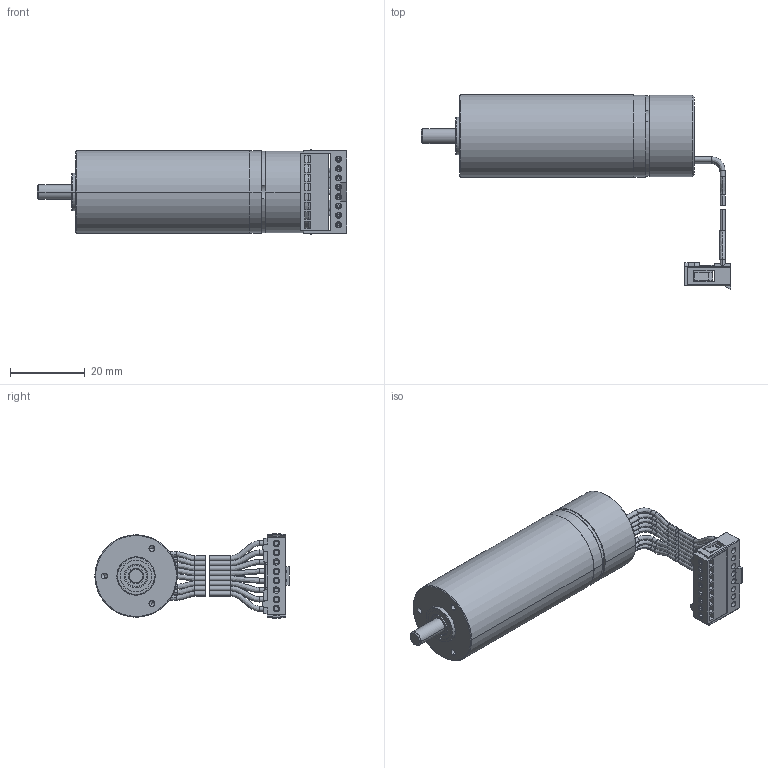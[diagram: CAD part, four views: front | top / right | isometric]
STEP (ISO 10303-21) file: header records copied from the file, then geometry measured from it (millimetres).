
FILE_DESCRIPTION((''),'2;1');
FILE_NAME('386673_EC22_100W_A','2016-10-17T',('mmagpetk'),(''),'CREO PARAMETRIC BY PTC INC, 2016050','CREO PARAMETRIC BY PTC INC, 2016050','');
FILE_SCHEMA(('CONFIG_CONTROL_DESIGN'));
Length unit declared in the file: millimetre
Products named in the file (1): 386673_EC22_100W_A
Bounding box: 82.75 x 51.89 x 22.6 mm (x, y, z)
Volume: 25287.7 mm3; surface area: 9096.5 mm2
Topology: 4 solids, 7 shells, 668 faces, 1812 edges, 1158 vertices
Faces by surface type: plane 330, cylinder 242, bspline 48, cone 30, torus 18
Entity records: 33503 total; most frequent: CARTESIAN_POINT 7755, ORIENTED_EDGE 3612, DIRECTION 3455, PRESENTATION_STYLE_ASSIGNMENT 2259, STYLED_ITEM 1810, CURVE_STYLE 1806, EDGE_CURVE 1806, AXIS2_PLACEMENT_3D 1219
